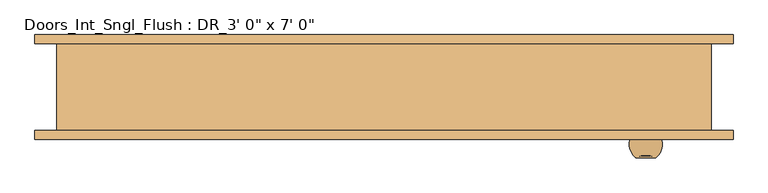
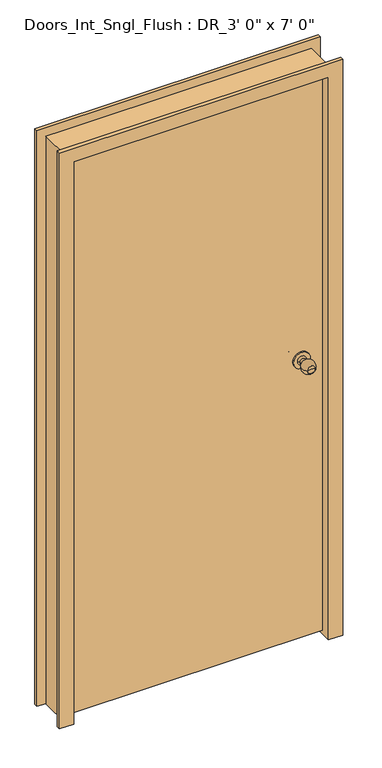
"""IFC4 building model written with IfcOpenShell, lengths in millimetres: door geometry."""

from ifc_helpers import new_model, si_unit, point, frame, frame_2d, origin, place, context, project, spatial, polyline, circle_curve, ellipse_curve, trimmed, segment, composite_curve, outline, extrude, faceted_brep, source, transform, mapped, element, save
from ifc_brep_helpers import plane_surface, revolved_surface, advanced_brep


def door_83dd4a57(model_context):
    return source(origin(), model_context, "Body", "SolidModel", [
        advanced_brep(
        [(364.86407, 11.3109375, 1066.8), (397.13593, 11.3109375, 1066.8), (381.0, 11.3109375, 1066.8), (369.0764613, 18.5532328, 1066.8), (392.9235387, 18.5532328, 1066.8), (369.8883493, 30.7456305, 1066.8), (392.1116507, 30.7456305, 1066.8), (366.6264906, 71.1941053, 1066.8), (395.3735094, 71.1941053, 1066.8), (381.0, 68.6230032, 1066.8)],
        [
            (0, 1, circle_curve(frame((381.0, 11.3109375, 1066.8), z_axis=(0.0, -1.0, 0.0), x_axis=(1.0, 0.0, 0.0)), 16.13593)),
            (1, 2),
            (2, 0),
            (1, 0, circle_curve(frame((381.0, 11.3109375, 1066.8), z_axis=(0.0, -1.0, 0.0), x_axis=(1.0, 0.0, 0.0)), 16.13593)),
            (3, 4, circle_curve(frame((381.0, 18.5532328, 1066.8), z_axis=(0.0, -1.0, 0.0), x_axis=(1.0, 0.0, 0.0)), 11.9235387)),
            (4, 1, circle_curve(frame((386.3548119, 9.8864241, 1066.8), z_axis=(0.0, 0.0, -1.0), x_axis=(1.0, 0.0, 0.0)), 10.8748216)),
            (0, 3, circle_curve(frame((375.6451881, 9.8864241, 1066.8), z_axis=(0.0, 0.0, -1.0), x_axis=(-1.0, 0.0, 0.0)), 10.8748216)),
            (4, 3, circle_curve(frame((381.0, 18.5532328, 1066.8), z_axis=(0.0, -1.0, 0.0), x_axis=(1.0, 0.0, 0.0)), 11.9235387)),
            (5, 6, circle_curve(frame((381.0, 30.7456305, 1066.8), z_axis=(0.0, -1.0, 0.0), x_axis=(1.0, 0.0, 0.0)), 11.1116507)),
            (6, 4, circle_curve(frame((414.2214035, 26.0946816, 1066.8), z_axis=(0.0, 0.0, 1.0), x_axis=(1.0, 0.0, 0.0)), 22.5936383)),
            (3, 5, circle_curve(frame((347.7785965, 26.0946816, 1066.8), z_axis=(0.0, 0.0, 1.0), x_axis=(-1.0, 0.0, 0.0)), 22.5936383)),
            (6, 5, circle_curve(frame((381.0, 30.7456305, 1066.8), z_axis=(0.0, -1.0, 0.0), x_axis=(1.0, 0.0, 0.0)), 11.1116507)),
            (7, 8, circle_curve(frame((381.0, 71.1941053, 1066.8), z_axis=(0.0, -1.0, 0.0), x_axis=(1.0, 0.0, 0.0)), 14.3735094)),
            (8, 6, circle_curve(frame((381.0, 51.997459, 1066.8), z_axis=(0.0, 0.0, -1.0), x_axis=(1.0, 0.0, 0.0)), 23.9814303)),
            (5, 7, circle_curve(frame((381.0, 51.997459, 1066.8), z_axis=(0.0, 0.0, -1.0), x_axis=(-1.0, 0.0, 0.0)), 23.9814303)),
            (8, 7, circle_curve(frame((381.0, 71.1941053, 1066.8), z_axis=(0.0, -1.0, 0.0), x_axis=(1.0, 0.0, 0.0)), 14.3735094)),
            (9, 8, circle_curve(frame((381.0, 110.0854452, 1066.8), z_axis=(0.0, 0.0, 1.0), x_axis=(1.0, 0.0, 0.0)), 41.4624419)),
            (7, 9, circle_curve(frame((381.0, 110.0854452, 1066.8), z_axis=(0.0, 0.0, 1.0), x_axis=(-1.0, 0.0, 0.0)), 41.4624419)),
        ],
        [
            plane_surface(frame((381.0, 11.3109375, 1066.8), z_axis=(0.0, -1.0, 0.0), x_axis=(1.0, 0.0, 0.0))),
            revolved_surface(trimmed(ellipse_curve(frame((386.3548119, 9.8864241, 1066.8), z_axis=(0.0, 0.0, 1.0), x_axis=(1.0, 0.0, 0.0)), 10.8748216, 10.8748216), [point((397.13593, 11.3109375, 1066.8))], [point((392.9235387, 18.5532328, 1066.8))], True, "CARTESIAN"), (381.0, 128.6080676, 1066.8), (0.0, 1.0, 0.0)),
            revolved_surface(trimmed(ellipse_curve(frame((414.2214035, 26.0946816, 1066.8), z_axis=(0.0, 0.0, -1.0), x_axis=(1.0, 0.0, 0.0)), 22.5936383, 22.5936383), [point((392.9235387, 18.5532328, 1066.8))], [point((392.1116507, 30.7456305, 1066.8))], True, "CARTESIAN"), (381.0, 128.6080676, 1066.8), (0.0, 1.0, 0.0)),
            revolved_surface(trimmed(ellipse_curve(frame((381.0, 51.997459, 1066.8), z_axis=(0.0, 0.0, 1.0), x_axis=(1.0, 0.0, 0.0)), 23.9814303, 23.9814303), [point((392.1116507, 30.7456305, 1066.8))], [point((395.3735094, 71.1941053, 1066.8))], True, "CARTESIAN"), (381.0, 128.6080676, 1066.8), (0.0, 1.0, 0.0)),
            revolved_surface(trimmed(ellipse_curve(frame((381.0, 110.0854452, 1066.8), z_axis=(0.0, 0.0, -1.0), x_axis=(1.0, 0.0, 0.0)), 41.4624419, 41.4624419), [point((395.3735094, 71.1941053, 1066.8))], [point((381.0, 68.6230032, 1066.8))], True, "CARTESIAN"), (381.0, 128.6080676, 1066.8), (0.0, 1.0, 0.0)),
        ],
        [
            (0, [[1, 2, 3]]),
            (0, [[4, -3, -2]]),
            (1, [[5, 6, -1, 7]]),
            (1, [[8, -7, -4, -6]]),
            (2, [[9, 10, -5, 11]]),
            (2, [[12, -11, -8, -10]]),
            (3, [[13, 14, -9, 15]]),
            (3, [[16, -15, -12, -14]]),
            (4, [[17, -13, 18]]),
            (4, [[-18, -16, -17]]),
        ],
    ),
        extrude(outline(composite_curve([segment(trimmed(circle_curve(frame_2d((1066.8, 381.0)), 30.0), [point((1066.8, 351.0))], [point((1066.8, 411.0))], False, "CARTESIAN"), True, "CONTINUOUS"), segment(trimmed(circle_curve(frame_2d((1066.8, 381.0)), 30.0), [point((1066.8, 411.0))], [point((1066.8, 351.0))], False, "CARTESIAN"), True, "CONTINUOUS")], self_intersect=False)), frame((0.0, 6.35, 0.0), z_axis=(0.0, 1.0, 0.0), x_axis=(0.0, 0.0, 1.0)), (0.0, 0.0, 1.0), 4.9609375),
        advanced_brep(
        [(364.86407, -43.0609375, 1066.8), (381.0, -43.0609375, 1066.8), (397.13593, -43.0609375, 1066.8), (369.0764613, -50.3032328, 1066.8), (392.9235387, -50.3032328, 1066.8), (369.8883493, -62.4956305, 1066.8), (392.1116507, -62.4956305, 1066.8), (366.6264906, -102.9441053, 1066.8), (395.3735094, -102.9441053, 1066.8), (381.0, -100.3730032, 1066.8)],
        [
            (0, 1),
            (1, 2),
            (2, 0, circle_curve(frame((381.0, -43.0609375, 1066.8), z_axis=(0.0, 1.0, 0.0), x_axis=(1.0, 0.0, 0.0)), 16.13593)),
            (0, 2, circle_curve(frame((381.0, -43.0609375, 1066.8), z_axis=(0.0, 1.0, 0.0), x_axis=(1.0, 0.0, 0.0)), 16.13593)),
            (3, 0, circle_curve(frame((375.6451881, -41.6364241, 1066.8), z_axis=(0.0, 0.0, -1.0), x_axis=(-1.0, 0.0, 0.0)), 10.8748216)),
            (2, 4, circle_curve(frame((386.3548119, -41.6364241, 1066.8), z_axis=(0.0, 0.0, -1.0), x_axis=(1.0, 0.0, 0.0)), 10.8748216)),
            (4, 3, circle_curve(frame((381.0, -50.3032328, 1066.8), z_axis=(0.0, 1.0, 0.0), x_axis=(1.0, 0.0, 0.0)), 11.9235387)),
            (3, 4, circle_curve(frame((381.0, -50.3032328, 1066.8), z_axis=(0.0, 1.0, 0.0), x_axis=(1.0, 0.0, 0.0)), 11.9235387)),
            (5, 3, circle_curve(frame((347.7785965, -57.8446816, 1066.8), z_axis=(0.0, 0.0, 1.0), x_axis=(-1.0, 0.0, 0.0)), 22.5936383)),
            (4, 6, circle_curve(frame((414.2214035, -57.8446816, 1066.8), z_axis=(0.0, 0.0, 1.0), x_axis=(1.0, 0.0, 0.0)), 22.5936383)),
            (6, 5, circle_curve(frame((381.0, -62.4956305, 1066.8), z_axis=(0.0, 1.0, 0.0), x_axis=(1.0, 0.0, 0.0)), 11.1116507)),
            (5, 6, circle_curve(frame((381.0, -62.4956305, 1066.8), z_axis=(0.0, 1.0, 0.0), x_axis=(1.0, 0.0, 0.0)), 11.1116507)),
            (7, 5, circle_curve(frame((381.0, -83.747459, 1066.8), z_axis=(0.0, 0.0, -1.0), x_axis=(-1.0, 0.0, 0.0)), 23.9814303)),
            (6, 8, circle_curve(frame((381.0, -83.747459, 1066.8), z_axis=(0.0, 0.0, -1.0), x_axis=(1.0, 0.0, 0.0)), 23.9814303)),
            (8, 7, circle_curve(frame((381.0, -102.9441053, 1066.8), z_axis=(0.0, 1.0, 0.0), x_axis=(1.0, 0.0, 0.0)), 14.3735094)),
            (7, 8, circle_curve(frame((381.0, -102.9441053, 1066.8), z_axis=(0.0, 1.0, 0.0), x_axis=(1.0, 0.0, 0.0)), 14.3735094)),
            (9, 7, circle_curve(frame((381.0, -141.8354452, 1066.8), z_axis=(0.0, 0.0, 1.0), x_axis=(-1.0, 0.0, 0.0)), 41.4624419)),
            (8, 9, circle_curve(frame((381.0, -141.8354452, 1066.8), z_axis=(0.0, 0.0, 1.0), x_axis=(1.0, 0.0, 0.0)), 41.4624419)),
        ],
        [
            plane_surface(frame((381.0, -43.0609375, 1066.8), z_axis=(0.0, 1.0, 0.0), x_axis=(1.0, 0.0, 0.0))),
            revolved_surface(trimmed(ellipse_curve(frame((386.3548119, -41.6364241, 1066.8), z_axis=(0.0, 0.0, -1.0), x_axis=(1.0, 0.0, 0.0)), 10.8748216, 10.8748216), [point((397.13593, -43.0609375, 1066.8))], [point((392.9235387, -50.3032328, 1066.8))], True, "CARTESIAN"), (381.0, -160.3580676, 1066.8), (0.0, -1.0, 0.0)),
            revolved_surface(trimmed(ellipse_curve(frame((414.2214035, -57.8446816, 1066.8), z_axis=(0.0, 0.0, 1.0), x_axis=(1.0, 0.0, 0.0)), 22.5936383, 22.5936383), [point((392.9235387, -50.3032328, 1066.8))], [point((392.1116507, -62.4956305, 1066.8))], True, "CARTESIAN"), (381.0, -160.3580676, 1066.8), (0.0, -1.0, 0.0)),
            revolved_surface(trimmed(ellipse_curve(frame((381.0, -83.747459, 1066.8), z_axis=(0.0, 0.0, -1.0), x_axis=(1.0, 0.0, 0.0)), 23.9814303, 23.9814303), [point((392.1116507, -62.4956305, 1066.8))], [point((395.3735094, -102.9441053, 1066.8))], True, "CARTESIAN"), (381.0, -160.3580676, 1066.8), (0.0, -1.0, 0.0)),
            revolved_surface(trimmed(ellipse_curve(frame((381.0, -141.8354452, 1066.8), z_axis=(0.0, 0.0, 1.0), x_axis=(1.0, 0.0, 0.0)), 41.4624419, 41.4624419), [point((395.3735094, -102.9441053, 1066.8))], [point((381.0, -100.3730032, 1066.8))], True, "CARTESIAN"), (381.0, -160.3580676, 1066.8), (0.0, -1.0, 0.0)),
        ],
        [
            (0, [[1, 2, 3]]),
            (0, [[-2, -1, 4]]),
            (1, [[5, -3, 6, 7]]),
            (1, [[-6, -4, -5, 8]]),
            (2, [[9, -7, 10, 11]]),
            (2, [[-10, -8, -9, 12]]),
            (3, [[13, -11, 14, 15]]),
            (3, [[-14, -12, -13, 16]]),
            (4, [[17, -15, 18]]),
            (4, [[-18, -16, -17]]),
        ],
    ),
        extrude(outline(composite_curve([segment(trimmed(circle_curve(frame_2d((1066.8, 381.0)), 30.0), [point((1066.8, 351.0))], [point((1066.8, 411.0))], False, "CARTESIAN"), True, "CONTINUOUS"), segment(trimmed(circle_curve(frame_2d((1066.8, 381.0)), 30.0), [point((1066.8, 411.0))], [point((1066.8, 351.0))], False, "CARTESIAN"), True, "CONTINUOUS")], self_intersect=False)), frame((0.0, -43.0609375, 0.0), z_axis=(0.0, 1.0, 0.0), x_axis=(0.0, 0.0, 1.0)), (0.0, 0.0, 1.0), 4.9609375),
        extrude(outline(polyline([(-457.2, -38.1), (-457.2, 6.35), (457.2, 6.35), (457.2, -38.1), (-457.2, -38.1)])), frame((0.0, 0.0, 12.7), z_axis=(0.0, 0.0, 1.0), x_axis=(1.0, 0.0, 0.0)), (0.0, 0.0, 1.0), 2120.9),
        faceted_brep([(-457.2, 76.2, 0.0), (-457.2, -76.2, 0.0), (-508.0, -76.2, 0.0), (-508.0, -63.5, 0.0), (-476.25, -63.5, 0.0), (-476.25, 63.5, 0.0), (-508.0, 63.5, 0.0), (-508.0, 76.2, 0.0), (-508.0, 76.2, 2184.4), (508.0, 76.2, 2184.4), (508.0, 76.2, 0.0), (457.2, 76.2, 0.0), (457.2, 76.2, 2133.6), (-457.2, 76.2, 2133.6), (-508.0, 63.5, 2184.4), (-476.25, 63.5, 2152.65), (476.25, 63.5, 2152.65), (476.25, 63.5, 0.0), (508.0, 63.5, 0.0), (508.0, 63.5, 2184.4), (-476.25, -63.5, 2152.65), (-508.0, -63.5, 2184.4), (508.0, -63.5, 2184.4), (508.0, -63.5, 0.0), (476.25, -63.5, 0.0), (476.25, -63.5, 2152.65), (-508.0, -76.2, 2184.4), (-457.2, -76.2, 2133.6), (457.2, -76.2, 2133.6), (457.2, -76.2, 0.0), (508.0, -76.2, 0.0), (508.0, -76.2, 2184.4)], [[[0, 1, 2, 3, 4, 5, 6, 7]], [[7, 8, 9, 10, 11, 12, 13, 0]], [[6, 14, 8, 7]], [[5, 15, 16, 17, 18, 19, 14, 6]], [[4, 20, 15, 5]], [[3, 21, 22, 23, 24, 25, 20, 4]], [[2, 26, 21, 3]], [[1, 27, 28, 29, 30, 31, 26, 2]], [[0, 13, 27, 1]], [[12, 11, 29, 28]], [[11, 10, 18, 17, 24, 23, 30, 29]], [[19, 18, 10, 9]], [[31, 30, 23, 22]], [[25, 24, 17, 16]], [[20, 25, 16, 15]], [[13, 12, 28, 27]], [[14, 19, 9, 8]], [[26, 31, 22, 21]]]),
    ])


if __name__ == "__main__":
    model = new_model("IFC4")
    model_context = context("Model", 3, world=origin())
    ifc_project = project(units=[si_unit("LENGTHUNIT", "METRE", prefix="MILLI")], contexts=[model_context])
    site = spatial("IfcSite", under=ifc_project)
    building = spatial("IfcBuilding", under=site)
    placement = place(None, origin())
    door_shape = door_83dd4a57(model_context)
    element("IfcDoor", 1, ObjectType="Doors_Int_Sngl_Flush : DR_3' 0\" x 7' 0\"", at=placement, inside=building, context=model_context, shape_type="MappedRepresentation", body=[
        mapped(door_shape, transform((0.0, 0.0, 0.0), x_axis=(1.0, 0.0, 0.0), y_axis=(0.0, 1.0, 0.0), z_axis=(0.0, 0.0, 1.0))),
    ])
    save(model, "model.ifc")
